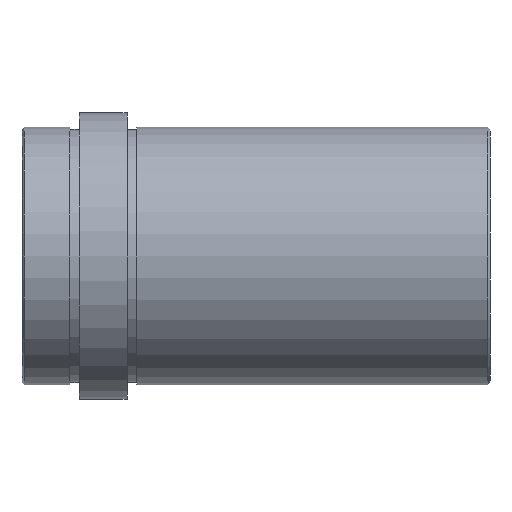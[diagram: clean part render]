
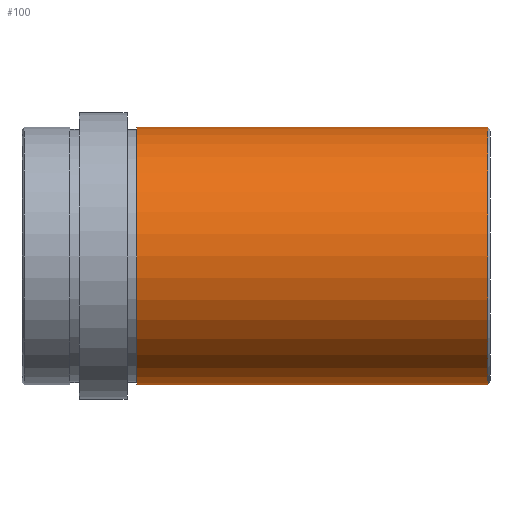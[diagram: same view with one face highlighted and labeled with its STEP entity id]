
A CAD part, front view. The second image highlights one B-rep face of the part: STEP entity #100.
In plain terms, the highlighted face is a revolution surface.
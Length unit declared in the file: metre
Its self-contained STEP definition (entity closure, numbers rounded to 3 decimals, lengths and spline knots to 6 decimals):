
#100 = ADVANCED_FACE( '', ( #157 ), #158, .F. );
#157 = FACE_OUTER_BOUND( '', #250, .T. );
#158 = SURFACE_OF_REVOLUTION( '', #251, #252 );
#250 = EDGE_LOOP( '', ( #419, #420, #421, #422 ) );
#251 = B_SPLINE_CURVE_WITH_KNOTS( '', 1, ( #423, #424 ), .UNSPECIFIED., .F., .F., ( 2, 2 ), ( -10000., 10000. ), .UNSPECIFIED. );
#252 = AXIS1_PLACEMENT( '', #425, #426 );
#419 = ORIENTED_EDGE( '', *, *, #492, .T. );
#420 = ORIENTED_EDGE( '', *, *, #490, .T. );
#421 = ORIENTED_EDGE( '', *, *, #445, .F. );
#422 = ORIENTED_EDGE( '', *, *, #489, .T. );
#423 = CARTESIAN_POINT( '', ( 10000.0975, 0., 0.027 ) );
#424 = CARTESIAN_POINT( '', ( -9999.9025, 0., 0.027 ) );
#425 = CARTESIAN_POINT( '', ( 0., 0., 0. ) );
#426 = DIRECTION( '', ( 1., 0., 0. ) );
#445 = EDGE_CURVE( '', #499, #500, #501, .T. );
#489 = EDGE_CURVE( '', #499, #571, #572, .F. );
#490 = EDGE_CURVE( '', #573, #500, #574, .T. );
#492 = EDGE_CURVE( '', #571, #573, #576, .T. );
#499 = VERTEX_POINT( '', #583 );
#500 = VERTEX_POINT( '', #584 );
#501 = CIRCLE( '', #585, 0.027 );
#571 = VERTEX_POINT( '', #671 );
#572 = LINE( '', #672, #673 );
#573 = VERTEX_POINT( '', #674 );
#574 = LINE( '', #675, #676 );
#576 = CIRCLE( '', #678, 0.027 );
#583 = CARTESIAN_POINT( '', ( 0.024, 0., -0.027 ) );
#584 = CARTESIAN_POINT( '', ( 0.024, 0., 0.027 ) );
#585 = AXIS2_PLACEMENT_3D( '', #689, #690, #691 );
#671 = CARTESIAN_POINT( '', ( 0.0975, 0., -0.027 ) );
#672 = CARTESIAN_POINT( '', ( 0.0975, 0., -0.027 ) );
#673 = VECTOR( '', #789, 1. );
#674 = CARTESIAN_POINT( '', ( 0.0975, 0., 0.027 ) );
#675 = CARTESIAN_POINT( '', ( 0.0975, 0., 0.027 ) );
#676 = VECTOR( '', #790, 1. );
#678 = AXIS2_PLACEMENT_3D( '', #794, #795, #796 );
#689 = CARTESIAN_POINT( '', ( 0.024, 0., 0. ) );
#690 = DIRECTION( '', ( -1., 0., 0. ) );
#691 = DIRECTION( '', ( 0., 0., 1. ) );
#789 = DIRECTION( '', ( -1., 0., 0. ) );
#790 = DIRECTION( '', ( -1., 0., 0. ) );
#794 = CARTESIAN_POINT( '', ( 0.0975, 0., 0. ) );
#795 = DIRECTION( '', ( -1., 0., 0. ) );
#796 = DIRECTION( '', ( 0., 0., 1. ) );
